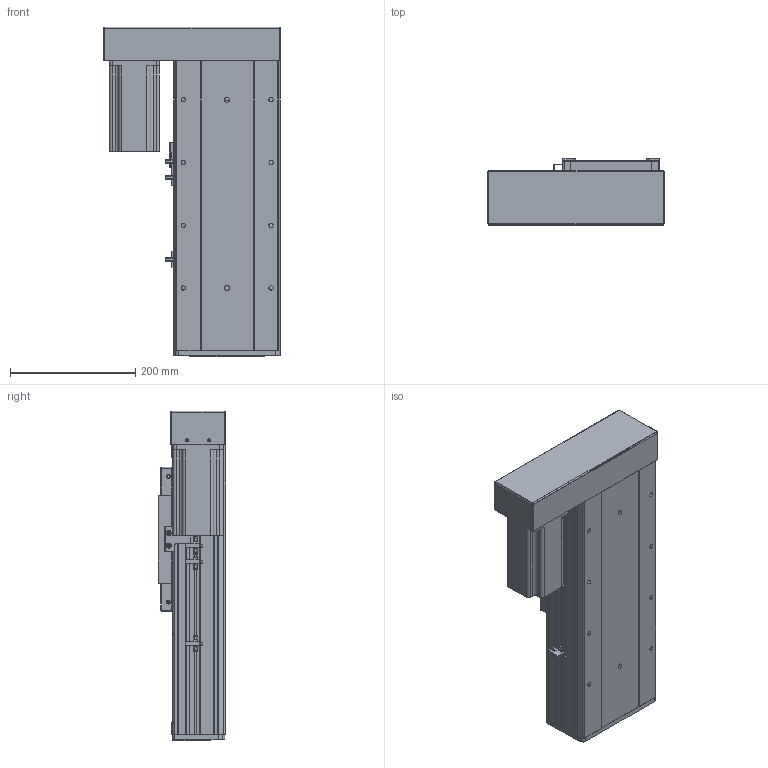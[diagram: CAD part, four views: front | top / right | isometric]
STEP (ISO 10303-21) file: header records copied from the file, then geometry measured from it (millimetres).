
FILE_DESCRIPTION (( 'STEP AP203' ), '1' );
FILE_NAME ('RY170F-L2020-300-LK.SLDASM_150.step', '2021-03-02T09:00:14', ( '盈信电脑' ), ( '东莞市道滘镇水果街19号' ), 'SwSTEP 2.0', 'SolidWorks 2012', '' );
FILE_SCHEMA (( 'CONFIG_CONTROL_DESIGN' ));
Length unit declared in the file: millimetre
Products named in the file (20): RY170F俋离覜茼え; RY170F-詩湍揤踡輸; RY170F-揤踡謫假蚾粣; 滅袉蝶18-10; RY170F-綴裔啣; 覜茼ん672; RY100F-詩湍揤踡謫; RY170F-300眻蟀倰第奻裔啣-LK_150; RY170F-丝杆铝滑块连接板; RY170F-佪裝臏賑輸20蹟譫; RY170F-300眻蟀倰第菁釱-LK_150; RY170F-滅鳥奻裔; RY170F-300眻蟀祥凄詩湍-LK_150; 侐源滅袉蝶; 滅袉蝶18-24; RY170F-酘衵殏萇儂釱; RY170F-蛌殏萇儂假蚾啣; RY170F-L2020-300-LK.SLDASM_150; 怢湛750W萇儂ㄗ80遺ㄘ; RY170F酘衵殏萇儂欶
Assembly tree (24 placements, depth 2):
  RY170F-L2020-300-LK.SLDASM_150
    RY170F-滅鳥奻裔
    RY170F-300眻蟀祥凄詩湍-LK_150
    RY170F-300眻蟀倰第菁釱-LK_150
    RY170F-佪裝臏賑輸20蹟譫
    RY170F-丝杆铝滑块连接板
    RY170F-300眻蟀倰第奻裔啣-LK_150  x2
    滅袉蝶18-10
    RY100F-詩湍揤踡謫
    RY170F-綴裔啣
    覜茼ん672  x3
    RY170F俋离覜茼え
    RY170F-揤踡謫假蚾粣
    RY170F-詩湍揤踡輸  x2
    滅袉蝶18-24
    侐源滅袉蝶  x2
    RY170F-酘衵殏萇儂釱
    RY170F-蛌殏萇儂假蚾啣
    怢湛750W萇儂ㄗ80遺ㄘ
    RY170F酘衵殏萇儂欶
Bounding box: 283 x 107 x 526 mm (x, y, z)
Volume: 4429720.9 mm3; surface area: 1308205.7 mm2
Topology: 24 solids, 24 shells, 1761 faces, 4894 edges, 3124 vertices
Faces by surface type: cylinder 821, plane 760, cone 172, bspline 8
Entity records: 50495 total; most frequent: CARTESIAN_POINT 10280, DIRECTION 8107, ORIENTED_EDGE 7792, EDGE_CURVE 3896, AXIS2_PLACEMENT_3D 2901, VERTEX_POINT 2544, VECTOR 2305, LINE 2305
